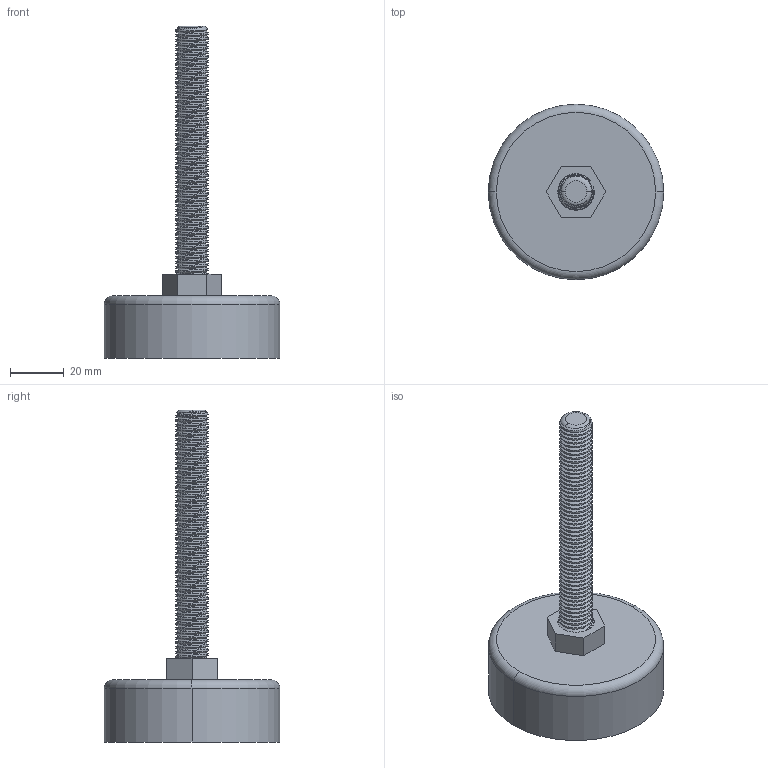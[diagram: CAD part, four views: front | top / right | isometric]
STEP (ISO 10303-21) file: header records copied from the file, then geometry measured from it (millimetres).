
FILE_DESCRIPTION (( 'STEP AP203' ), '1' );
FILE_NAME ('221-CE-UAF-12.STEP', '2015-07-09T09:30:07', ( '' ), ( '' ), 'SwSTEP 2.0', 'SolidWorks 2013', '' );
FILE_SCHEMA (( 'CONFIG_CONTROL_DESIGN' ));
Length unit declared in the file: millimetre
Products named in the file (1): 221-CE-UAF-12
Bounding box: 65 x 65 x 123 mm (x, y, z)
Volume: 87817.4 mm3; surface area: 16920.8 mm2
Topology: 1 solids, 1 shells, 131 faces, 378 edges, 251 vertices
Faces by surface type: cylinder 112, plane 11, torus 5, bspline 3
Entity records: 8774 total; most frequent: CARTESIAN_POINT 5905, ORIENTED_EDGE 756, DIRECTION 433, EDGE_CURVE 378, VERTEX_POINT 251, AXIS2_PLACEMENT_3D 150, VECTOR 133, EDGE_LOOP 133
